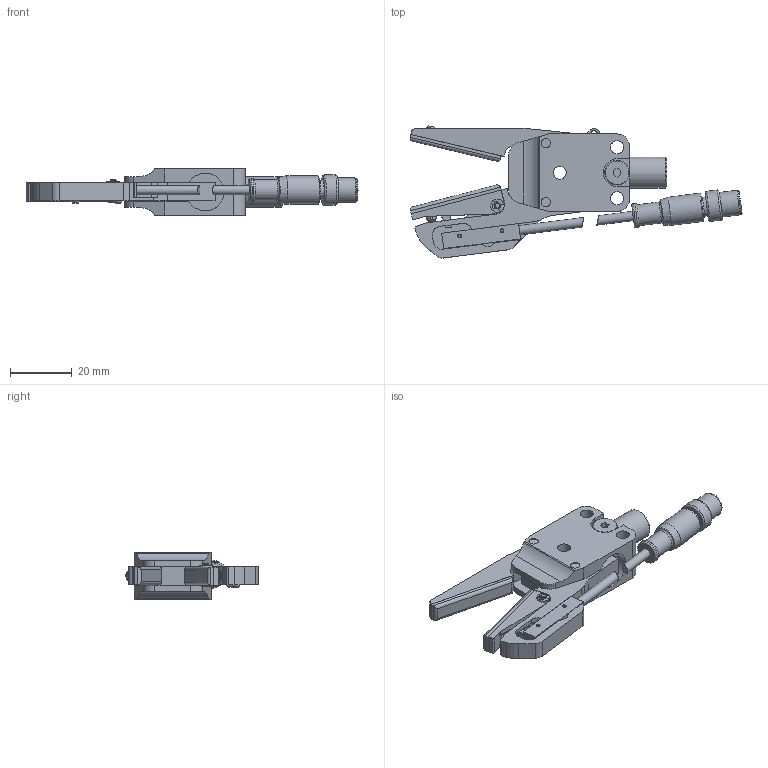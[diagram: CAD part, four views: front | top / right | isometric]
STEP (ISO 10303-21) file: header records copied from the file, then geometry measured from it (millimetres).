
FILE_DESCRIPTION(('STEP AP214'),'1');
FILE_NAME('CA.GZA.10.12.SGN.stp','2020-05-05T14:33:33',(' '),(' '),'Spatial InterOp 3D',' ',' ');
FILE_SCHEMA(('AUTOMOTIVE_DESIGN { 1 0 10303 214 1 1 1 1 }'));
Length unit declared in the file: millimetre
Products named in the file (10): CA.GZA.10.12.SGN; A.ELA.RA1.5; SP.2x7.5SS; V.TBCE1,6X6; GZA.10.12.6.V; GZA.10.12.3.S1G; MMD.IL5AN3AVF80; GZA.10.12.3.G; GZA.10.12.3.S; GZA.10.12.1.L (derivato)
Assembly tree (11 placements, depth 2):
  CA.GZA.10.12.SGN
    A.ELA.RA1.5
    SP.2x7.5SS
    V.TBCE1,6X6  x2
    GZA.10.12.6.V  x2
    GZA.10.12.3.S1G
    MMD.IL5AN3AVF80
    GZA.10.12.3.G
    GZA.10.12.3.S
    GZA.10.12.1.L (derivato)
Bounding box: 107.21 x 42.68 x 15 mm (x, y, z)
Volume: 18706.9 mm3; surface area: 13786.5 mm2
Topology: 15 solids, 16 shells, 488 faces, 1264 edges, 830 vertices
Faces by surface type: plane 237, cylinder 209, cone 20, torus 16, sphere 6
Full cylindrical faces by diameter (mm): 1 x3, 1.25 x2, 1.4 x2, 1.5 x1, 1.6 x2, 1.8 x2, 2 x3, 2.02 x3, 2.05 x1, 2.1 x2, 3 x6, 3.05 x8, 3.1 x3, 4 x1, 4.2 x5, 5 x3, 5.8 x1, 6.3 x1, 6.8 x1, 7.6 x1, 7.8 x1, 8 x2, 9.17 x1, 9.8 x1, 10 x1, 12.2 x2
Entity records: 15561 total; most frequent: CARTESIAN_POINT 2344, DIRECTION 2019, ORIENTED_EDGE 1810, EDGE_CURVE 905, AXIS2_PLACEMENT_3D 767, VERTEX_POINT 645, EDGE_LOOP 555, LINE 485
